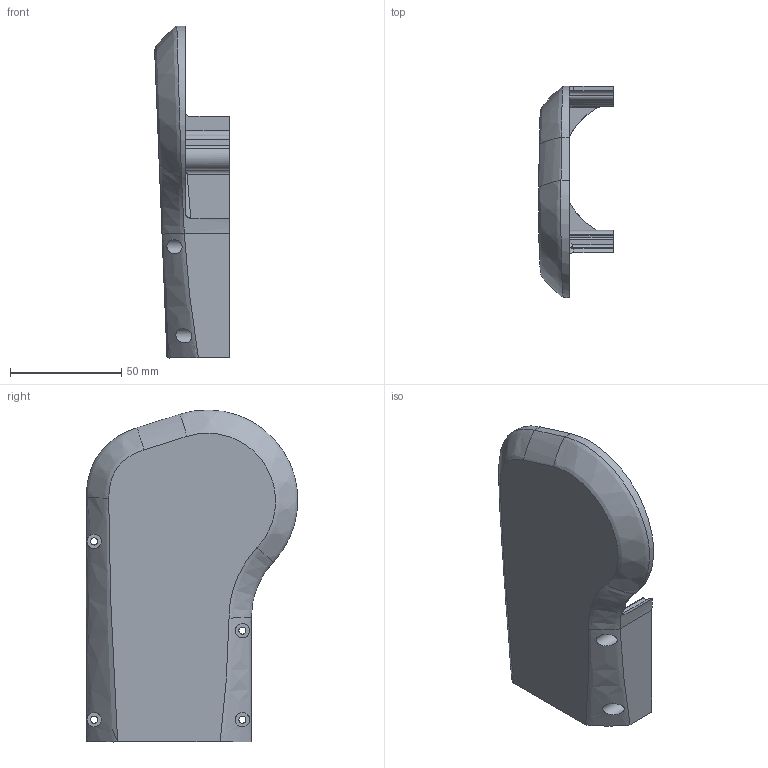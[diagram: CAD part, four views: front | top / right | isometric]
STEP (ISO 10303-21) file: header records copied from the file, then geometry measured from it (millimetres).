
FILE_DESCRIPTION(/* description */ ('STEP AP242 Edition 2','CAx-IF Rec.Pracs.---Representation and Presentation of Product Manufacturing Information (PMI)---4.0---2014-10-13','CAx-IF Rec.Pracs.---3D Tessellated Geometry---0.4---2014-09-14','2;1','CAx-IF Rec.Pracs.---User Defined Attributes---1.5---2016-08-15'),/* implementation_level */ '2;1');
FILE_NAME(/* name */ 'Assy_ForMFG - KC-C-402R_Forearm_Upper_Idle',/* time_stamp */ '2026-05-15T19:56:24Z',/* author */ (''),/* organization */ (''),/* preprocessor_version */ 'ST-DEVELOPER v20',/* originating_system */ 'ONSHAPE BY PTC INC, 1.215',/* authorisation */ ' ');
FILE_SCHEMA (('AP242_MANAGED_MODEL_BASED_3D_ENGINEERING_MIM_LF { 1 0 10303 442 3 1 4 }'));
Length unit declared in the file: metre
Products named in the file (1): KC-C-402R_Forearm_Upper_Idle
Bounding box: 33.58 x 94.77 x 148.99 mm (x, y, z)
Volume: 42396.2 mm3; surface area: 36529.1 mm2
Topology: 1 solids, 1 shells, 113 faces, 304 edges, 194 vertices
Faces by surface type: cylinder 46, plane 31, bspline 30, cone 4, torus 1, sphere 1
Full cylindrical faces by diameter (mm): 3 x2, 3.2 x4, 6.5 x4
Entity records: 5311 total; most frequent: CARTESIAN_POINT 2834, ORIENTED_EDGE 556, DIRECTION 418, EDGE_CURVE 278, VERTEX_POINT 187, AXIS2_PLACEMENT_3D 163, FACE_BOUND 139, EDGE_LOOP 137
